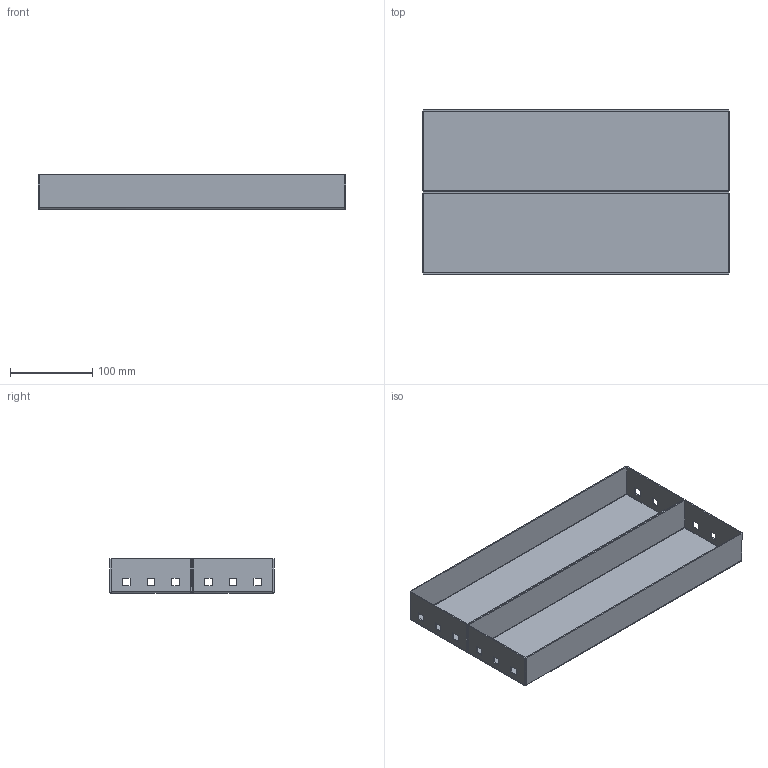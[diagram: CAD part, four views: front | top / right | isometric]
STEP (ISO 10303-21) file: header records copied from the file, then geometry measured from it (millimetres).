
FILE_DESCRIPTION (( 'STEP AP214' ), '1' );
FILE_NAME ('3D-Ìîäåëü Ïàíåëü áîêîâàÿ öîêîëÿ Optibox M-200x500 (259946).STEP', '2018-07-09T10:59:58', ( '' ), ( '' ), 'SwSTEP 2.0', 'SolidWorks 2018', '' );
FILE_SCHEMA (( 'AUTOMOTIVE_DESIGN' ));
Length unit declared in the file: millimetre
Products named in the file (2): ÏàíåëüÁîêîâàÿ500; 3D-Ìîäåëü Ïàíåëü áîêîâàÿ öîêîëÿ Optibox M-200x500 (259946)
Assembly tree (2 placements, depth 2):
  3D-Ìîäåëü Ïàíåëü áîêîâàÿ öîêîëÿ Optibox M-200x500 (259946)
    ÏàíåëüÁîêîâàÿ500  x2
Bounding box: 375 x 200 x 42 mm (x, y, z)
Volume: 223393.9 mm3; surface area: 302327.3 mm2
Topology: 2 solids, 2 shells, 124 faces, 296 edges, 176 vertices
Faces by surface type: plane 92, bspline 16, cylinder 16
Entity records: 2182 total; most frequent: CARTESIAN_POINT 727, ORIENTED_EDGE 296, DIRECTION 250, EDGE_CURVE 148, LINE 132, VECTOR 132, VERTEX_POINT 88, EDGE_LOOP 74
